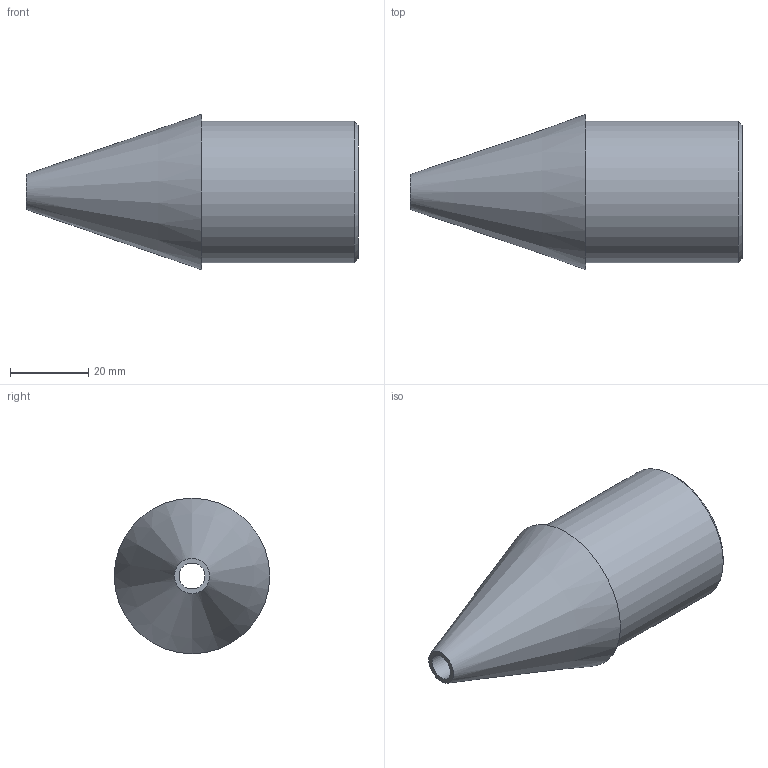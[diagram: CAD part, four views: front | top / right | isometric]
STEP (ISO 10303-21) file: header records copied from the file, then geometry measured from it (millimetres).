
FILE_DESCRIPTION( ( 'Unknown' ), '1' );
FILE_NAME( 'F:/navkite transat/construction/2016/3D ET ASSEMBLAGES/AMI/AMI 02.stp', 'Unknown', ( 'GMA' ), ( 'Unknown' ), 'XStep 1.0', 'Unknown', ' ' );
FILE_SCHEMA( ( 'automotive_design' ) );
Length unit declared in the file: millimetre
Products named in the file (1): 1
Bounding box: 85 x 39.8 x 39.8 mm (x, y, z)
Volume: 29894.9 mm3; surface area: 14407.2 mm2
Topology: 1 solids, 1 shells, 9 faces, 18 edges, 12 vertices
Faces by surface type: plane 3, cone 3, cylinder 3
Full cylindrical faces by diameter (mm): 6.647 x1, 30 x1, 36.2 x1
Entity records: 276 total; most frequent: DIRECTION 38, CARTESIAN_POINT 28, AXIS2_PLACEMENT_3D 19, EDGE_LOOP 18, ORIENTED_EDGE 18, FACE_OUTER_BOUND 12, STYLED_ITEM 9, PRESENTATION_STYLE_ASSIGNMENT 9
